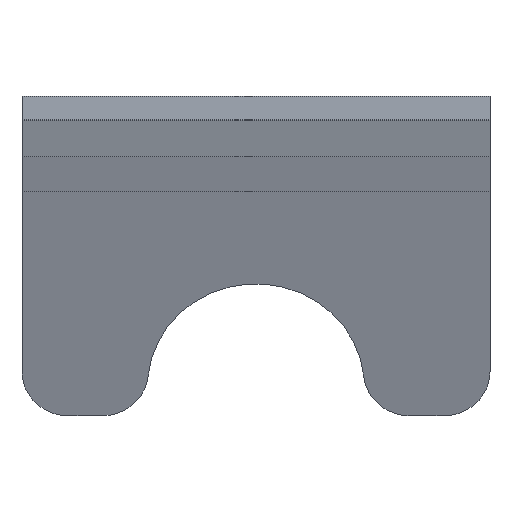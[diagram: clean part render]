
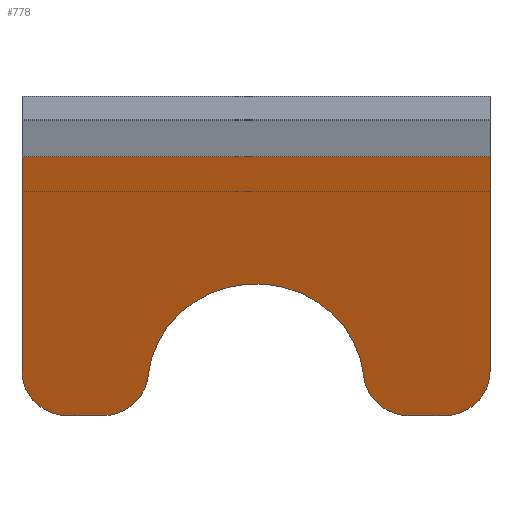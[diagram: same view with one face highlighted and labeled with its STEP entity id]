
A CAD part, front view. The second image highlights one B-rep face of the part: STEP entity #778.
In plain terms, the highlighted planar face has unit normal (0, -0.943, -0.334).
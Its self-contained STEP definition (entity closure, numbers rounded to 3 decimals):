
#1 = VERTEX_POINT ( 'NONE', #10 ) ;
#5 = CARTESIAN_POINT ( 'NONE',  ( 14.601, -5.525, -7.82 ) ) ;
#10 = CARTESIAN_POINT ( 'NONE',  ( 5.389, -5.525, -7.82 ) ) ;
#50 = CARTESIAN_POINT ( 'NONE',  ( 3.398, -4.922, -9.522 ) ) ;
#57 = CARTESIAN_POINT ( 'NONE',  ( 20., -8.848, 1.548 ) ) ;
#117 = EDGE_CURVE ( 'NONE', #573, #804, #495, .T. ) ;
#122 = DIRECTION ( 'NONE',  ( 0., -0.334, 0.942 ) ) ;
#124 = CIRCLE ( 'NONE', #410, 2. ) ;
#140 = AXIS2_PLACEMENT_3D ( 'NONE', #231, #243, #744 ) ;
#145 = LINE ( 'NONE', #861, #461 ) ;
#148 = CARTESIAN_POINT ( 'NONE',  ( 20., -8.848, 1.548 ) ) ;
#172 = VERTEX_POINT ( 'NONE', #468 ) ;
#178 = ORIENTED_EDGE ( 'NONE', *, *, #458, .T. ) ;
#181 = EDGE_CURVE ( 'NONE', #524, #1, #768, .T. ) ;
#182 = EDGE_CURVE ( 'NONE', #560, #804, #255, .T. ) ;
#190 = CARTESIAN_POINT ( 'NONE',  ( 20., -5.59, -7.637 ) ) ;
#192 = ORIENTED_EDGE ( 'NONE', *, *, #452, .T. ) ;
#194 = DIRECTION ( 'NONE',  ( -1., 0., 0. ) ) ;
#195 = DIRECTION ( 'NONE',  ( 0., -0.942, -0.334 ) ) ;
#214 = AXIS2_PLACEMENT_3D ( 'NONE', #674, #195, #610 ) ;
#219 = ORIENTED_EDGE ( 'NONE', *, *, #407, .F. ) ;
#220 = VECTOR ( 'NONE', #194, 1000. ) ;
#231 = CARTESIAN_POINT ( 'NONE',  ( 3.398, -5.59, -7.637 ) ) ;
#232 = CIRCLE ( 'NONE', #140, 2. ) ;
#242 = FACE_OUTER_BOUND ( 'NONE', #826, .T. ) ;
#243 = DIRECTION ( 'NONE',  ( 0., -0.942, -0.334 ) ) ;
#249 = DIRECTION ( 'NONE',  ( 0., -0.334, 0.942 ) ) ;
#255 = LINE ( 'NONE', #57, #599 ) ;
#256 = DIRECTION ( 'NONE',  ( 0., 0.334, -0.942 ) ) ;
#257 = DIRECTION ( 'NONE',  ( 0., 0.334, -0.942 ) ) ;
#272 = EDGE_CURVE ( 'NONE', #274, #1, #232, .T. ) ;
#274 = VERTEX_POINT ( 'NONE', #50 ) ;
#277 = DIRECTION ( 'NONE',  ( 0., 0.334, -0.942 ) ) ;
#283 = LINE ( 'NONE', #383, #220 ) ;
#289 = LINE ( 'NONE', #481, #313 ) ;
#294 = DIRECTION ( 'NONE',  ( 0., 0.334, -0.942 ) ) ;
#313 = VECTOR ( 'NONE', #249, 1000. ) ;
#323 = CARTESIAN_POINT ( 'NONE',  ( 20., -8.848, 1.548 ) ) ;
#340 = CARTESIAN_POINT ( 'NONE',  ( 9.995, -5.375, -8.243 ) ) ;
#355 = VERTEX_POINT ( 'NONE', #818 ) ;
#357 = CARTESIAN_POINT ( 'NONE',  ( 2., -5.59, -7.637 ) ) ;
#358 = EDGE_CURVE ( 'NONE', #524, #172, #124, .T. ) ;
#373 = ORIENTED_EDGE ( 'NONE', *, *, #272, .T. ) ;
#383 = CARTESIAN_POINT ( 'NONE',  ( 20., -4.922, -9.522 ) ) ;
#395 = ORIENTED_EDGE ( 'NONE', *, *, #182, .T. ) ;
#407 = EDGE_CURVE ( 'NONE', #274, #724, #145, .T. ) ;
#410 = AXIS2_PLACEMENT_3D ( 'NONE', #844, #626, #277 ) ;
#425 = EDGE_CURVE ( 'NONE', #355, #172, #283, .T. ) ;
#430 = DIRECTION ( 'NONE',  ( 0., -0.942, -0.334 ) ) ;
#432 = CIRCLE ( 'NONE', #656, 2. ) ;
#448 = CIRCLE ( 'NONE', #214, 2. ) ;
#452 = EDGE_CURVE ( 'NONE', #573, #724, #432, .T. ) ;
#458 = EDGE_CURVE ( 'NONE', #829, #560, #289, .T. ) ;
#461 = VECTOR ( 'NONE', #571, 1000. ) ;
#468 = CARTESIAN_POINT ( 'NONE',  ( 16.592, -4.922, -9.522 ) ) ;
#481 = CARTESIAN_POINT ( 'NONE',  ( 20., -8.848, 1.548 ) ) ;
#495 = LINE ( 'NONE', #604, #805 ) ;
#497 = DIRECTION ( 'NONE',  ( -1., 0., 0. ) ) ;
#524 = VERTEX_POINT ( 'NONE', #5 ) ;
#539 = AXIS2_PLACEMENT_3D ( 'NONE', #323, #729, #257 ) ;
#551 = AXIS2_PLACEMENT_3D ( 'NONE', #340, #749, #256 ) ;
#560 = VERTEX_POINT ( 'NONE', #148 ) ;
#571 = DIRECTION ( 'NONE',  ( -1., 0., 0. ) ) ;
#573 = VERTEX_POINT ( 'NONE', #580 ) ;
#580 = CARTESIAN_POINT ( 'NONE',  ( 0., -5.59, -7.637 ) ) ;
#591 = CARTESIAN_POINT ( 'NONE',  ( 2., -4.922, -9.522 ) ) ;
#599 = VECTOR ( 'NONE', #497, 1000. ) ;
#604 = CARTESIAN_POINT ( 'NONE',  ( 0., -8.848, 1.548 ) ) ;
#610 = DIRECTION ( 'NONE',  ( 0., 0.334, -0.942 ) ) ;
#626 = DIRECTION ( 'NONE',  ( 0., -0.942, -0.334 ) ) ;
#627 = ORIENTED_EDGE ( 'NONE', *, *, #117, .F. ) ;
#656 = AXIS2_PLACEMENT_3D ( 'NONE', #357, #430, #294 ) ;
#674 = CARTESIAN_POINT ( 'NONE',  ( 18., -5.59, -7.637 ) ) ;
#705 = ORIENTED_EDGE ( 'NONE', *, *, #181, .F. ) ;
#724 = VERTEX_POINT ( 'NONE', #591 ) ;
#729 = DIRECTION ( 'NONE',  ( 0., -0.942, -0.334 ) ) ;
#733 = ORIENTED_EDGE ( 'NONE', *, *, #358, .T. ) ;
#744 = DIRECTION ( 'NONE',  ( 0., 0.334, -0.942 ) ) ;
#749 = DIRECTION ( 'NONE',  ( 0., -0.942, -0.334 ) ) ;
#768 = CIRCLE ( 'NONE', #551, 4.628 ) ;
#778 = ADVANCED_FACE ( 'NONE', ( #242 ), #793, .T. ) ;
#791 = CARTESIAN_POINT ( 'NONE',  ( 0., -8.848, 1.548 ) ) ;
#793 = PLANE ( 'NONE',  #539 ) ;
#796 = ORIENTED_EDGE ( 'NONE', *, *, #425, .F. ) ;
#804 = VERTEX_POINT ( 'NONE', #791 ) ;
#805 = VECTOR ( 'NONE', #122, 1000. ) ;
#818 = CARTESIAN_POINT ( 'NONE',  ( 18., -4.922, -9.522 ) ) ;
#826 = EDGE_LOOP ( 'NONE', ( #627, #192, #219, #373, #705, #733, #796, #836, #178, #395 ) ) ;
#829 = VERTEX_POINT ( 'NONE', #190 ) ;
#836 = ORIENTED_EDGE ( 'NONE', *, *, #871, .T. ) ;
#844 = CARTESIAN_POINT ( 'NONE',  ( 16.592, -5.59, -7.637 ) ) ;
#861 = CARTESIAN_POINT ( 'NONE',  ( 20., -4.922, -9.522 ) ) ;
#871 = EDGE_CURVE ( 'NONE', #355, #829, #448, .T. ) ;
